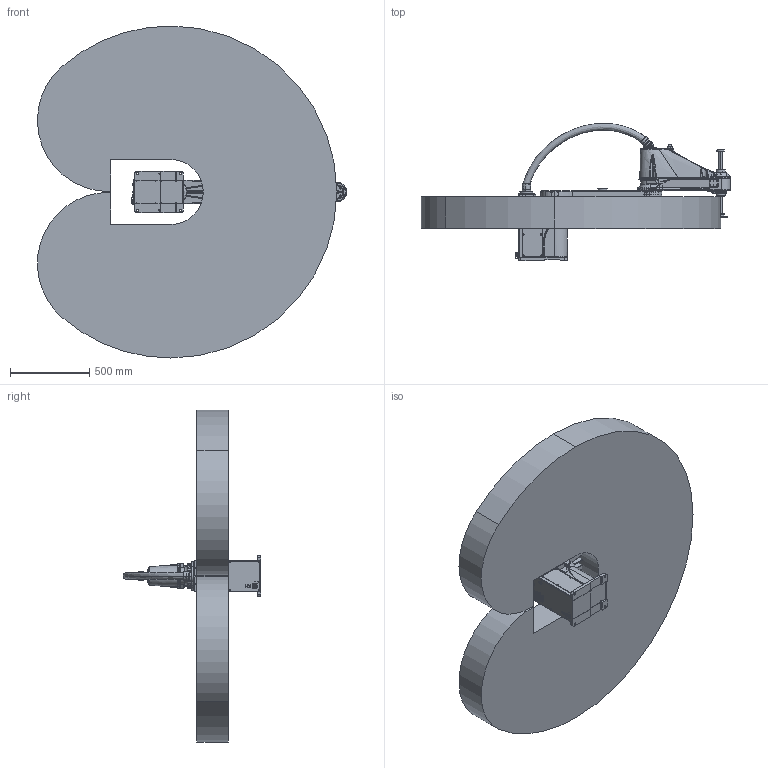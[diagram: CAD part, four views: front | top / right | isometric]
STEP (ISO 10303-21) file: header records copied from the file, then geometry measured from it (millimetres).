
FILE_DESCRIPTION (( 'STEP AP203' ), '1' );
FILE_NAME ('AH20-1050-0204-2000-V1.0.0.STEP', '2022-06-02T07:36:13', ( '' ), ( '' ), 'SwSTEP 2.0', 'SolidWorks 2017', '' );
FILE_SCHEMA (( 'CONFIG_CONTROL_DESIGN' ));
Products named in the file (7): AH20-1050-0204-2000-V1.0.0; AH20-1050-0204-2000-T1-V1.0.0; AH20-1050-0204-2000-T2-V1.0.0; AH20-1050-0204-2000-T3-V1.0.0; AH20-1050-0204-2000-T4-V1.0.0; AH20-1050-0204-2000-T5-V1.0.0; AH20-1050-0204-2000-T6-V1.0.0
Assembly tree (6 placements, depth 2):
  AH20-1050-0204-2000-V1.0.0
    AH20-1050-0204-2000-T1-V1.0.0
    AH20-1050-0204-2000-T2-V1.0.0
    AH20-1050-0204-2000-T3-V1.0.0
    AH20-1050-0204-2000-T4-V1.0.0
    AH20-1050-0204-2000-T5-V1.0.0
    AH20-1050-0204-2000-T6-V1.0.0
Bounding box: 1955.79 x 867.41 x 2100 mm (x, y, z)
Volume: 612705463.5 mm3; surface area: 9857407.6 mm2
Topology: 13 solids, 91 shells, 6685 faces, 17376 edges, 11073 vertices
Faces by surface type: plane 2679, cylinder 1594, bspline 1116, cone 871, torus 342, sphere 83
Entity records: 305968 total; most frequent: CARTESIAN_POINT 150791, ORIENTED_EDGE 33667, DIRECTION 29204, EDGE_CURVE 17190, VERTEX_POINT 11051, AXIS2_PLACEMENT_3D 10480, LINE 8244, VECTOR 8244
